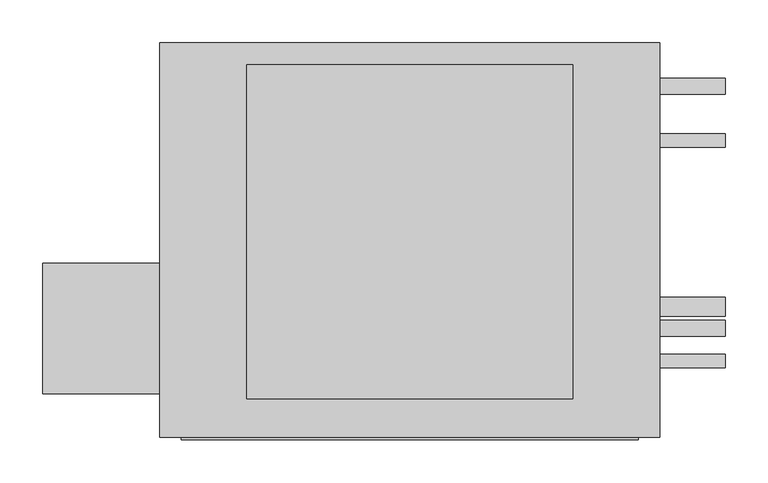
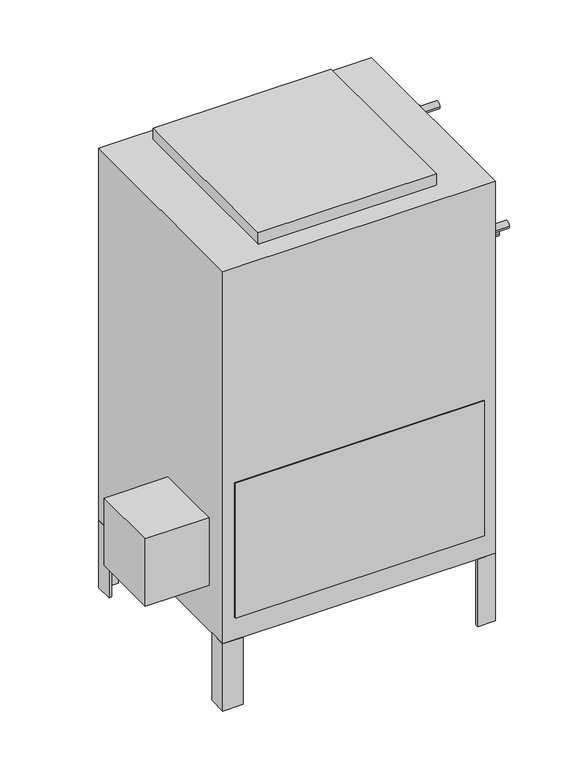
"""IFC4 building model written with IfcOpenShell, lengths in millimetres: proxy geometry, Concealed_High_Capacity_Vertical_Fan_Coil_Unit_-_42DDA_-_CARRIER_-_4-Pipe_RH_2022 : Size 06 - 277v/60Hz/1Ph - 4/2 Coil."""

from ifc_helpers import new_model, si_unit, point, frame, frame_2d, origin, origin_with_axes, place, context, project, spatial, polyline, circle_curve, trimmed, segment, composite_curve, outline, extrude, source, transform, mapped, element, save


def mechanical_equipment_3a64e9f5(model_context):
    return source(origin(), model_context, "Body", "SweptSolid", [
        extrude(outline(polyline([(-276.225, -417.5125), (-276.225, -265.1125), (-139.7, -265.1125), (-139.7, -417.5125), (-276.225, -417.5125)])), frame((0.0, 0.0, 101.6), z_axis=(0.0, 0.0, 1.0), x_axis=(1.0, 0.0, 0.0)), (0.0, 0.0, 1.0), 152.4),
        extrude(outline(polyline([(444.5, -46.0375), (438.15, -46.0375), (438.15, -14.2875), (406.4, -14.2875), (406.4, -7.9375), (444.5, -7.9375), (444.5, -46.0375)])), frame((0.0, 0.0, -152.4), z_axis=(0.0, 0.0, 1.0), x_axis=(1.0, 0.0, 0.0)), (0.0, 0.0, 1.0), 152.4),
        extrude(outline(polyline([(-101.6, -7.9375), (-101.6, -14.2875), (-133.35, -14.2875), (-133.35, -46.0375), (-139.7, -46.0375), (-139.7, -7.9375), (-101.6, -7.9375)])), frame((0.0, 0.0, -152.4), z_axis=(0.0, 0.0, 1.0), x_axis=(1.0, 0.0, 0.0)), (0.0, 0.0, 1.0), 152.4),
        extrude(outline(polyline([(406.4, -468.3125), (406.4, -461.9625), (438.15, -461.9625), (438.15, -430.2125), (444.5, -430.2125), (444.5, -468.3125), (406.4, -468.3125)])), frame((0.0, 0.0, -152.4), z_axis=(0.0, 0.0, 1.0), x_axis=(1.0, 0.0, 0.0)), (0.0, 0.0, 1.0), 152.4),
        extrude(outline(polyline([(-139.7, -428.1199163), (-133.35, -428.1199163), (-133.35, -461.9625), (-96.2318533, -461.9625), (-96.2318533, -468.3125), (-139.7, -468.3125), (-139.7, -428.1199163)])), frame((0.0, 0.0, -152.4), z_axis=(0.0, 0.0, 1.0), x_axis=(1.0, 0.0, 0.0)), (0.0, 0.0, 1.0), 152.4),
        extrude(outline(polyline([(342.9, -33.3375), (342.9, -423.8625), (-38.1, -423.8625), (-38.1, -33.3375), (342.9, -33.3375)])), frame((0.0, 0.0, 841.375), z_axis=(0.0, 0.0, 1.0), x_axis=(1.0, 0.0, 0.0)), (0.0, 0.0, 1.0), 25.4),
        extrude(outline(polyline([(419.1, -471.4875), (-114.3, -471.4875), (-114.3, -468.3125), (419.1, -468.3125), (419.1, -471.4875)])), frame((0.0, 0.0, 50.8), z_axis=(0.0, 0.0, 1.0), x_axis=(1.0, 0.0, 0.0)), (0.0, 0.0, 1.0), 304.8),
        extrude(outline(composite_curve([segment(trimmed(circle_curve(frame_2d((-122.2375, 777.875)), 7.9375), [point((-114.3, 777.875))], [point((-130.175, 777.875))], False, "CARTESIAN"), True, "CONTINUOUS"), segment(trimmed(circle_curve(frame_2d((-122.2375, 777.875)), 7.9375), [point((-130.175, 777.875))], [point((-114.3, 777.875))], False, "CARTESIAN"), True, "CONTINUOUS")], self_intersect=False)), frame((444.5, 0.0, 0.0), z_axis=(1.0, 0.0, 0.0), x_axis=(0.0, 1.0, 0.0)), (0.0, 0.0, 1.0), 76.2),
        extrude(outline(composite_curve([segment(trimmed(circle_curve(frame_2d((-379.4125, 663.575)), 7.9375), [point((-371.475, 663.575))], [point((-387.35, 663.575))], False, "CARTESIAN"), True, "CONTINUOUS"), segment(trimmed(circle_curve(frame_2d((-379.4125, 663.575)), 7.9375), [point((-387.35, 663.575))], [point((-371.475, 663.575))], False, "CARTESIAN"), True, "CONTINUOUS")], self_intersect=False)), frame((444.5, 0.0, 0.0), z_axis=(1.0, 0.0, 0.0), x_axis=(0.0, 1.0, 0.0)), (0.0, 0.0, 1.0), 76.2),
        extrude(outline(composite_curve([segment(trimmed(circle_curve(frame_2d((-58.7375, 727.075)), 9.525), [point((-49.2125, 727.075))], [point((-68.2625, 727.075))], False, "CARTESIAN"), True, "CONTINUOUS"), segment(trimmed(circle_curve(frame_2d((-58.7375, 727.075)), 9.525), [point((-68.2625, 727.075))], [point((-49.2125, 727.075))], False, "CARTESIAN"), True, "CONTINUOUS")], self_intersect=False)), frame((444.5, 0.0, 0.0), z_axis=(1.0, 0.0, 0.0), x_axis=(0.0, 1.0, 0.0)), (0.0, 0.0, 1.0), 76.2),
        extrude(outline(composite_curve([segment(trimmed(circle_curve(frame_2d((-341.3125, 625.475)), 9.525), [point((-331.7875, 625.475))], [point((-350.8375, 625.475))], False, "CARTESIAN"), True, "CONTINUOUS"), segment(trimmed(circle_curve(frame_2d((-341.3125, 625.475)), 9.525), [point((-350.8375, 625.475))], [point((-331.7875, 625.475))], False, "CARTESIAN"), True, "CONTINUOUS")], self_intersect=False)), frame((444.5, 0.0, 0.0), z_axis=(1.0, 0.0, 0.0), x_axis=(0.0, 1.0, 0.0)), (0.0, 0.0, 1.0), 76.2),
        extrude(outline(composite_curve([segment(trimmed(circle_curve(frame_2d((-315.9125, 536.575)), 11.1125), [point((-304.8, 536.575))], [point((-327.025, 536.575))], False, "CARTESIAN"), True, "CONTINUOUS"), segment(trimmed(circle_curve(frame_2d((-315.9125, 536.575)), 11.1125), [point((-327.025, 536.575))], [point((-304.8, 536.575))], False, "CARTESIAN"), True, "CONTINUOUS")], self_intersect=False)), frame((444.5, 0.0, 0.0), z_axis=(1.0, 0.0, 0.0), x_axis=(0.0, 1.0, 0.0)), (0.0, 0.0, 1.0), 76.2),
        extrude(outline(polyline([(444.5, -7.9375), (444.5, -468.3125), (-139.7, -468.3125), (-139.7, -7.9375), (444.5, -7.9375)])), origin_with_axes(), (0.0, 0.0, 1.0), 841.375),
    ])


if __name__ == "__main__":
    model = new_model("IFC4")
    model_context = context("Model", 3, world=origin())
    ifc_project = project(units=[si_unit("LENGTHUNIT", "METRE", prefix="MILLI")], contexts=[model_context])
    site = spatial("IfcSite", under=ifc_project)
    building = spatial("IfcBuilding", under=site)
    placement = place(None, origin())
    mechanical_equipment_shape = mechanical_equipment_3a64e9f5(model_context)
    element("IfcBuildingElementProxy", 1, Name="Concealed_High_Capacity_Vertical_Fan_Coil_Unit_-_42DDA_-_CARRIER_-_4-Pipe_RH_2022 : Size 06 - 277v/60Hz/1Ph - 4/2 Coil", ObjectType="Concealed_High_Capacity_Vertical_Fan_Coil_Unit_-_42DDA_-_CARRIER_-_4-Pipe_RH_2022 : Size 06 - 277v/60Hz/1Ph - 4/2 Coil", at=placement, inside=building, context=model_context, shape_type="MappedRepresentation", body=[
        mapped(mechanical_equipment_shape, transform((0.0, 0.0, 0.0), x_axis=(1.0, 0.0, 0.0), y_axis=(0.0, 1.0, 0.0), z_axis=(0.0, 0.0, 1.0))),
    ])
    save(model, "model.ifc")
